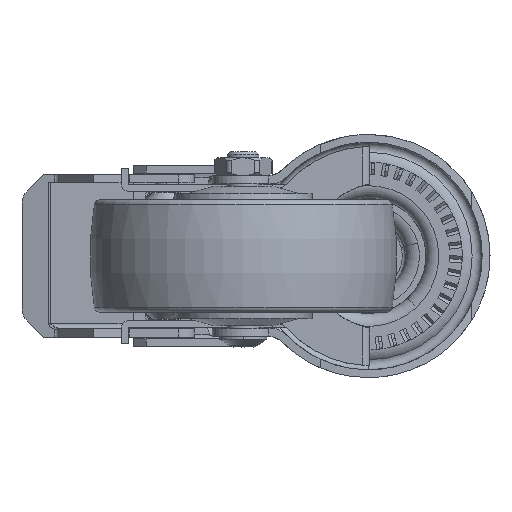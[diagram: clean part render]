
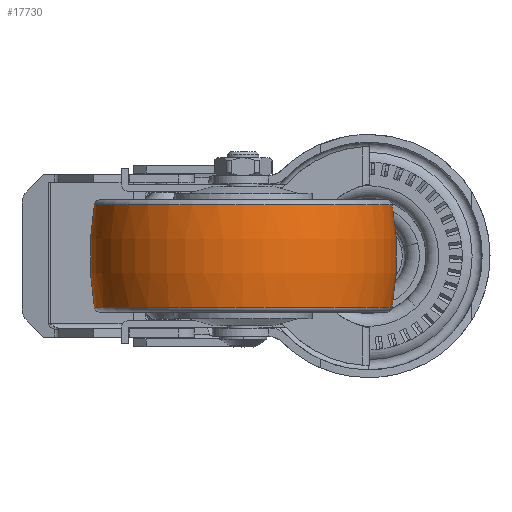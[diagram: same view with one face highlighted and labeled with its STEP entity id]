
A CAD part, front view. The second image highlights one B-rep face of the part: STEP entity #17730.
In plain terms, the highlighted toroidal (fillet/blend) face has major radius 51 mm and minor radius 100 mm.
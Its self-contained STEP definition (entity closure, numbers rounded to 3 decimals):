
#16354 = CARTESIAN_POINT ( 'NONE',  ( 11.917, -23.32, 12.319 ) ) ;
#16664 = CARTESIAN_POINT ( 'NONE',  ( -83.399, -23.32, 12.319 ) ) ;
#16823 = CARTESIAN_POINT ( 'NONE',  ( -83.399, -23.32, -20.334 ) ) ;
#16951 = CARTESIAN_POINT ( 'NONE',  ( 11.917, -23.32, -20.334 ) ) ;
#17011 = TOROIDAL_SURFACE ( 'NONE', #17047, -51., 100. ) ;
#17013 = DIRECTION ( 'NONE',  ( 0., 0., -1. ) ) ;
#17014 = DIRECTION ( 'NONE',  ( 0., -1., 0. ) ) ;
#17015 = AXIS2_PLACEMENT_3D ( 'NONE', #17032, #17014, #17013 ) ;
#17016 = AXIS2_PLACEMENT_3D ( 'NONE', #17061, #17057, #17056 ) ;
#17020 = DIRECTION ( 'NONE',  ( -1., 0., 0. ) ) ;
#17021 = DIRECTION ( 'NONE',  ( 0., 1., 0. ) ) ;
#17022 = CARTESIAN_POINT ( 'NONE',  ( -86.741, -23.32, -4.008 ) ) ;
#17023 = AXIS2_PLACEMENT_3D ( 'NONE', #17022, #17021, #17020 ) ;
#17024 = CIRCLE ( 'NONE', #17015, 100. ) ;
#17030 = CIRCLE ( 'NONE', #17023, 100. ) ;
#17032 = CARTESIAN_POINT ( 'NONE',  ( 15.259, -23.32, -4.008 ) ) ;
#17039 = DIRECTION ( 'NONE',  ( -1., 0., 0. ) ) ;
#17040 = DIRECTION ( 'NONE',  ( 0., 0., -1. ) ) ;
#17041 = CARTESIAN_POINT ( 'NONE',  ( -35.741, -23.32, -20.334 ) ) ;
#17044 = AXIS2_PLACEMENT_3D ( 'NONE', #17041, #17040, #17039 ) ;
#17045 = DIRECTION ( 'NONE',  ( -1., 0., 0. ) ) ;
#17047 = AXIS2_PLACEMENT_3D ( 'NONE', #17063, #17062, #17045 ) ;
#17055 = CIRCLE ( 'NONE', #17044, 47.658 ) ;
#17056 = DIRECTION ( 'NONE',  ( -1., 0., 0. ) ) ;
#17057 = DIRECTION ( 'NONE',  ( 0., 0., -1. ) ) ;
#17061 = CARTESIAN_POINT ( 'NONE',  ( -35.741, -23.32, 12.319 ) ) ;
#17062 = DIRECTION ( 'NONE',  ( 0., 0., -1. ) ) ;
#17063 = CARTESIAN_POINT ( 'NONE',  ( -35.741, -23.32, -4.008 ) ) ;
#17065 = CIRCLE ( 'NONE', #17016, 47.658 ) ;
#17070 = FACE_OUTER_BOUND ( 'NONE', #17750, .T. ) ;
#17378 = VERTEX_POINT ( 'NONE', #16354 ) ;
#17563 = VERTEX_POINT ( 'NONE', #16664 ) ;
#17617 = VERTEX_POINT ( 'NONE', #16823 ) ;
#17668 = VERTEX_POINT ( 'NONE', #16951 ) ;
#17708 = EDGE_CURVE ( 'NONE', #17378, #17668, #17030, .T. ) ;
#17711 = EDGE_CURVE ( 'NONE', #17563, #17617, #17024, .T. ) ;
#17727 = EDGE_CURVE ( 'NONE', #17378, #17563, #17065, .T. ) ;
#17730 = ADVANCED_FACE ( 'NONE', ( #17070 ), #17011, .T. ) ;
#17732 = ORIENTED_EDGE ( 'NONE', *, *, #17734, .F. ) ;
#17733 = ORIENTED_EDGE ( 'NONE', *, *, #17727, .T. ) ;
#17734 = EDGE_CURVE ( 'NONE', #17668, #17617, #17055, .T. ) ;
#17735 = ORIENTED_EDGE ( 'NONE', *, *, #17711, .T. ) ;
#17747 = ORIENTED_EDGE ( 'NONE', *, *, #17708, .F. ) ;
#17750 = EDGE_LOOP ( 'NONE', ( #17747, #17733, #17735, #17732 ) ) ;
